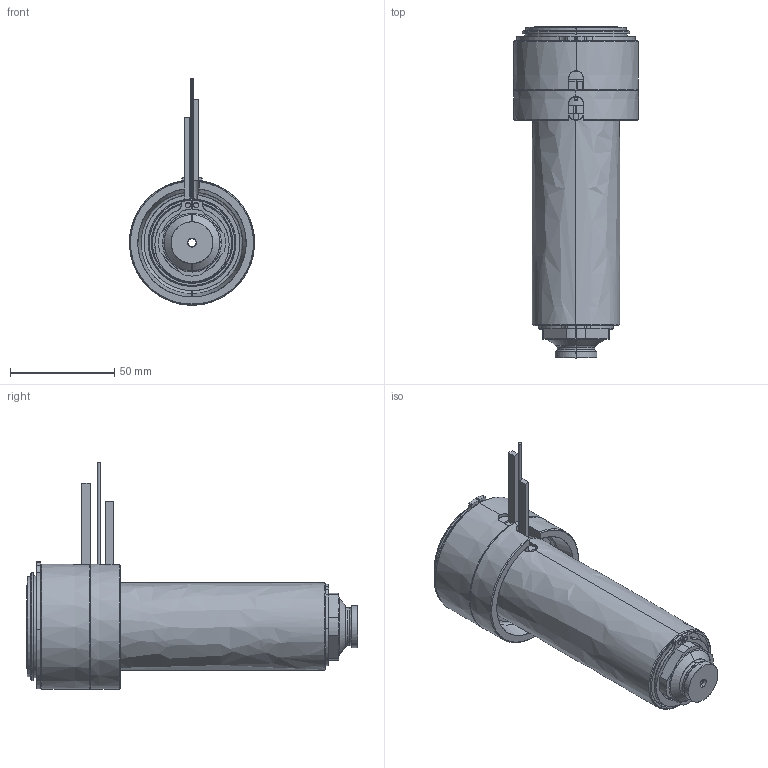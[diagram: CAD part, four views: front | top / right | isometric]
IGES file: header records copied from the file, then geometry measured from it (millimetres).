
Start section: SolidWorks IGES file using analytic representation for surfaces
Global section: file name: C:\Documents and Settings\ws-20\Desktop\TEM\UGER6605-M-A-0 [Øb-3.9 P-0 ØC-17].IGS; native system: SolidWorks 2012; preprocessor: SolidWorks 2012; author: ws-20; date: 120417.135259; units: millimetre
Bounding box: 60 x 159.25 x 108.65 mm (x, y, z)
Surface area: 88113.6 mm2 (no closed solid volume)
Topology: 0 solids, 0 shells, 166 faces, 3258 edges, 3258 vertices
Faces by surface type: revolution 100, bspline 66
